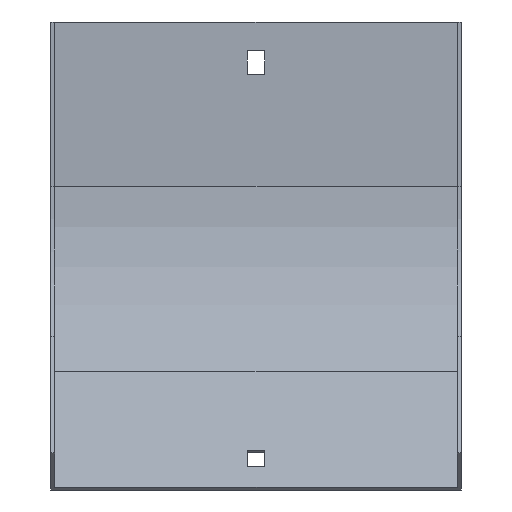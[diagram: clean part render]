
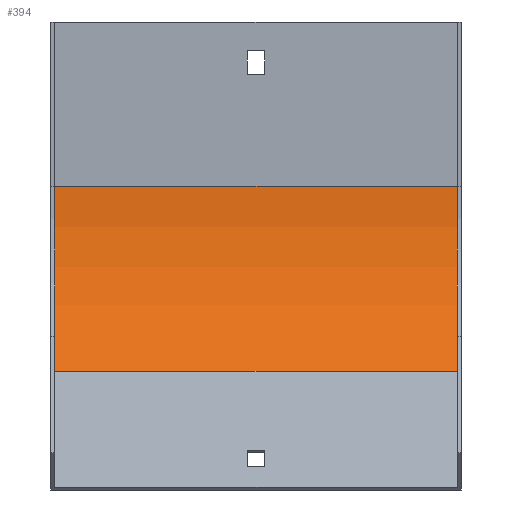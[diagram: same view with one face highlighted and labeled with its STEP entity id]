
A CAD part, front view. The second image highlights one B-rep face of the part: STEP entity #394.
In plain terms, the highlighted cylindrical face has radius 100 mm (diameter 200 mm), a partial arc.
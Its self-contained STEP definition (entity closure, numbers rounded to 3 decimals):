
#7 = DIRECTION ( 'NONE',  ( -1., 0., 0. ) ) ;
#18 = VERTEX_POINT ( 'NONE', #806 ) ;
#39 = FACE_OUTER_BOUND ( 'NONE', #142, .T. ) ;
#67 = ORIENTED_EDGE ( 'NONE', *, *, #517, .F. ) ;
#79 = EDGE_CURVE ( 'NONE', #552, #577, #579, .T. ) ;
#105 = CARTESIAN_POINT ( 'NONE',  ( 77., -30.789, -133.441 ) ) ;
#111 = VECTOR ( 'NONE', #7, 1000. ) ;
#142 = EDGE_LOOP ( 'NONE', ( #67, #650, #266, #274 ) ) ;
#244 = CARTESIAN_POINT ( 'NONE',  ( 77., -101.5, -62.73 ) ) ;
#262 = AXIS2_PLACEMENT_3D ( 'NONE', #725, #396, #574 ) ;
#266 = ORIENTED_EDGE ( 'NONE', *, *, #79, .T. ) ;
#269 = CARTESIAN_POINT ( 'NONE',  ( 78.5, -30.789, -133.441 ) ) ;
#274 = ORIENTED_EDGE ( 'NONE', *, *, #606, .T. ) ;
#308 = CYLINDRICAL_SURFACE ( 'NONE', #600, 100. ) ;
#318 = VERTEX_POINT ( 'NONE', #683 ) ;
#394 = ADVANCED_FACE ( 'NONE', ( #39 ), #308, .F. ) ;
#396 = DIRECTION ( 'NONE',  ( 1., 0., 0. ) ) ;
#447 = DIRECTION ( 'NONE',  ( 0., 0., 1. ) ) ;
#514 = DIRECTION ( 'NONE',  ( 0., 0., 1. ) ) ;
#517 = EDGE_CURVE ( 'NONE', #318, #18, #567, .T. ) ;
#528 = LINE ( 'NONE', #541, #620 ) ;
#541 = CARTESIAN_POINT ( 'NONE',  ( 78.5, -1.5, -62.73 ) ) ;
#547 = CARTESIAN_POINT ( 'NONE',  ( 77., -1.5, -62.73 ) ) ;
#552 = VERTEX_POINT ( 'NONE', #105 ) ;
#567 = CIRCLE ( 'NONE', #262, 100. ) ;
#574 = DIRECTION ( 'NONE',  ( 0., 0., 1. ) ) ;
#575 = CARTESIAN_POINT ( 'NONE',  ( 78.5, -101.5, -62.73 ) ) ;
#577 = VERTEX_POINT ( 'NONE', #547 ) ;
#579 = CIRCLE ( 'NONE', #800, 100. ) ;
#584 = EDGE_CURVE ( 'NONE', #552, #318, #599, .T. ) ;
#599 = LINE ( 'NONE', #269, #111 ) ;
#600 = AXIS2_PLACEMENT_3D ( 'NONE', #575, #843, #447 ) ;
#606 = EDGE_CURVE ( 'NONE', #577, #18, #528, .T. ) ;
#620 = VECTOR ( 'NONE', #807, 1000. ) ;
#650 = ORIENTED_EDGE ( 'NONE', *, *, #584, .F. ) ;
#683 = CARTESIAN_POINT ( 'NONE',  ( -77., -30.789, -133.441 ) ) ;
#725 = CARTESIAN_POINT ( 'NONE',  ( -77., -101.5, -62.73 ) ) ;
#777 = DIRECTION ( 'NONE',  ( 1., 0., 0. ) ) ;
#800 = AXIS2_PLACEMENT_3D ( 'NONE', #244, #777, #514 ) ;
#806 = CARTESIAN_POINT ( 'NONE',  ( -77., -1.5, -62.73 ) ) ;
#807 = DIRECTION ( 'NONE',  ( -1., 0., 0. ) ) ;
#843 = DIRECTION ( 'NONE',  ( -1., 0., 0. ) ) ;
